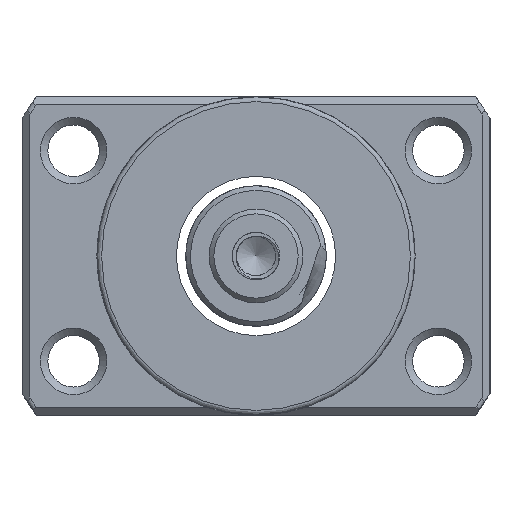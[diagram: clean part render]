
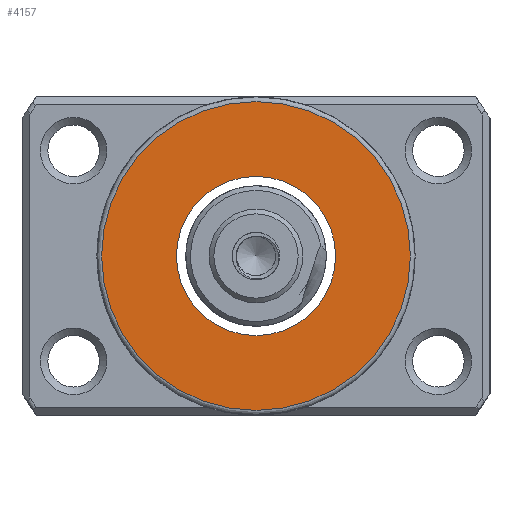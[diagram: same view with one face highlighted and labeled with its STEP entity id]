
A CAD part, left-side view. The second image highlights one B-rep face of the part: STEP entity #4157.
In plain terms, the highlighted planar face has unit normal (-1, 0, 0).
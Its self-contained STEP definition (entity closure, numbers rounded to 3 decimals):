
#1284 = VERTEX_POINT ( 'NONE', #5223 ) ;
#2250 = FACE_OUTER_BOUND ( 'NONE', #12394, .T. ) ;
#2313 = DIRECTION ( 'NONE',  ( 0., 0., 1. ) ) ;
#2715 = EDGE_CURVE ( 'NONE', #12204, #12204, #6172, .T. ) ;
#3283 = AXIS2_PLACEMENT_3D ( 'NONE', #4408, #10396, #3436 ) ;
#3436 = DIRECTION ( 'NONE',  ( 0., 0., 1. ) ) ;
#3621 = EDGE_CURVE ( 'NONE', #1284, #1284, #12770, .T. ) ;
#4157 = ADVANCED_FACE ( 'NONE', ( #2250, #5404 ), #11223, .T. ) ;
#4408 = CARTESIAN_POINT ( 'NONE',  ( -53.324, 0., 0. ) ) ;
#4704 = DIRECTION ( 'NONE',  ( 0., 0., 1. ) ) ;
#5223 = CARTESIAN_POINT ( 'NONE',  ( -53.324, 0., 16.5 ) ) ;
#5404 = FACE_BOUND ( 'NONE', #6758, .T. ) ;
#5669 = DIRECTION ( 'NONE',  ( -1., 0., 0. ) ) ;
#6172 = CIRCLE ( 'NONE', #3283, 8.5 ) ;
#6249 = DIRECTION ( 'NONE',  ( -1., 0., 0. ) ) ;
#6758 = EDGE_LOOP ( 'NONE', ( #10658 ) ) ;
#7224 = CARTESIAN_POINT ( 'NONE',  ( -53.324, 8.5, 0. ) ) ;
#7234 = CARTESIAN_POINT ( 'NONE',  ( -53.324, 0., 8.5 ) ) ;
#8238 = AXIS2_PLACEMENT_3D ( 'NONE', #11614, #5669, #4704 ) ;
#10216 = AXIS2_PLACEMENT_3D ( 'NONE', #7224, #6249, #2313 ) ;
#10396 = DIRECTION ( 'NONE',  ( -1., 0., 0. ) ) ;
#10658 = ORIENTED_EDGE ( 'NONE', *, *, #2715, .F. ) ;
#11172 = ORIENTED_EDGE ( 'NONE', *, *, #3621, .T. ) ;
#11223 = PLANE ( 'NONE',  #10216 ) ;
#11614 = CARTESIAN_POINT ( 'NONE',  ( -53.324, 0., 0. ) ) ;
#12204 = VERTEX_POINT ( 'NONE', #7234 ) ;
#12394 = EDGE_LOOP ( 'NONE', ( #11172 ) ) ;
#12770 = CIRCLE ( 'NONE', #8238, 16.5 ) ;
